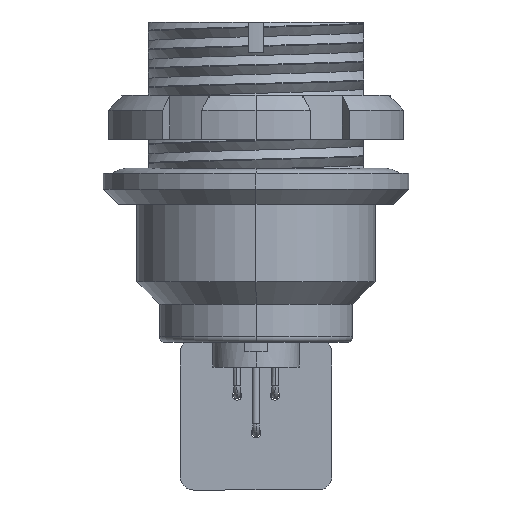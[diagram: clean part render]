
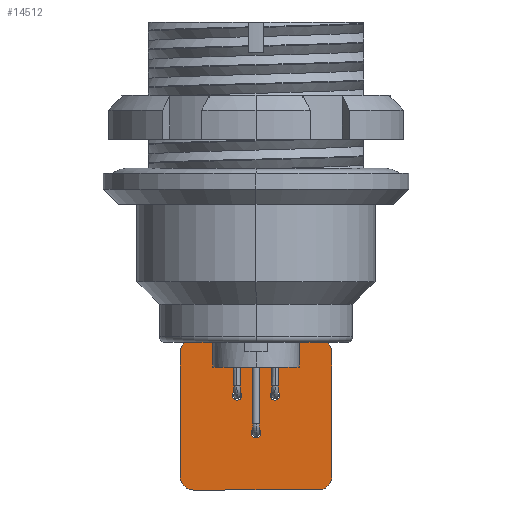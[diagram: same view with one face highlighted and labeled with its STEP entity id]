
A CAD part, left-side view. The second image highlights one B-rep face of the part: STEP entity #14512.
In plain terms, the highlighted planar face has unit normal (-1, 0, 0).
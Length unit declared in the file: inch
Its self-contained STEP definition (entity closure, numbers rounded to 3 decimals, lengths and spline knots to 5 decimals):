
#150 = DIRECTION ( 'NONE',  ( 1., 0., 0. ) ) ;
#222 = DIRECTION ( 'NONE',  ( 1., 0., 0. ) ) ;
#301 = CARTESIAN_POINT ( 'NONE',  ( 0.5, -0.165, -0.437 ) ) ;
#558 = AXIS2_PLACEMENT_3D ( 'NONE', #7543, #17738, #9116 ) ;
#570 = CARTESIAN_POINT ( 'NONE',  ( 0.5, 0.05, -0.587 ) ) ;
#585 = EDGE_CURVE ( 'NONE', #1026, #13732, #4982, .T. ) ;
#588 = ORIENTED_EDGE ( 'NONE', *, *, #3194, .T. ) ;
#731 = CARTESIAN_POINT ( 'NONE',  ( 0.5, -0.05, -0.587 ) ) ;
#988 = DIRECTION ( 'NONE',  ( -1., 0., 0. ) ) ;
#1026 = VERTEX_POINT ( 'NONE', #14835 ) ;
#1280 = ORIENTED_EDGE ( 'NONE', *, *, #13784, .T. ) ;
#1321 = FACE_OUTER_BOUND ( 'NONE', #5461, .T. ) ;
#1506 = CARTESIAN_POINT ( 'NONE',  ( 0.5, 0.05, -0.587 ) ) ;
#1599 = VERTEX_POINT ( 'NONE', #301 ) ;
#1964 = VECTOR ( 'NONE', #16043, 39.37008 ) ;
#2143 = DIRECTION ( 'NONE',  ( 0., 0., -1. ) ) ;
#2281 = DIRECTION ( 'NONE',  ( 0., 0., -1. ) ) ;
#2312 = LINE ( 'NONE', #14889, #9972 ) ;
#2487 = CARTESIAN_POINT ( 'NONE',  ( 0.5, 0., -0.6995 ) ) ;
#2655 = CARTESIAN_POINT ( 'NONE',  ( 0.5, 0.2, -0.837 ) ) ;
#2922 = AXIS2_PLACEMENT_3D ( 'NONE', #17646, #9000, #19051 ) ;
#2951 = AXIS2_PLACEMENT_3D ( 'NONE', #570, #11299, #2143 ) ;
#3072 = DIRECTION ( 'NONE',  ( 0., 0., -1. ) ) ;
#3194 = EDGE_CURVE ( 'NONE', #6085, #14391, #11630, .T. ) ;
#3379 = CIRCLE ( 'NONE', #18736, 0.035 ) ;
#3533 = CIRCLE ( 'NONE', #9568, 0.0125 ) ;
#3584 = EDGE_CURVE ( 'NONE', #10656, #13856, #13191, .T. ) ;
#3998 = CARTESIAN_POINT ( 'NONE',  ( 0.5, 0.2, -0.437 ) ) ;
#4051 = DIRECTION ( 'NONE',  ( 0., 0., 1. ) ) ;
#4190 = AXIS2_PLACEMENT_3D ( 'NONE', #17402, #8733, #18807 ) ;
#4310 = EDGE_CURVE ( 'NONE', #4413, #13732, #6490, .T. ) ;
#4350 = CARTESIAN_POINT ( 'NONE',  ( 0.5, 0., -0.6745 ) ) ;
#4395 = EDGE_CURVE ( 'NONE', #15481, #11815, #10091, .T. ) ;
#4413 = VERTEX_POINT ( 'NONE', #5701 ) ;
#4602 = CARTESIAN_POINT ( 'NONE',  ( 0.5, 0., 0. ) ) ;
#4982 = LINE ( 'NONE', #3998, #9063 ) ;
#5162 = EDGE_CURVE ( 'NONE', #16368, #18722, #11508, .T. ) ;
#5332 = CARTESIAN_POINT ( 'NONE',  ( 0.5, -0.2, -0.472 ) ) ;
#5403 = FACE_BOUND ( 'NONE', #10991, .T. ) ;
#5461 = EDGE_LOOP ( 'NONE', ( #6104, #10704, #18262, #6868, #7387, #16290, #15892, #16388 ) ) ;
#5701 = CARTESIAN_POINT ( 'NONE',  ( 0.5, 0.165, -0.437 ) ) ;
#5790 = EDGE_CURVE ( 'NONE', #15481, #13856, #12411, .T. ) ;
#5862 = FACE_BOUND ( 'NONE', #14822, .T. ) ;
#5935 = DIRECTION ( 'NONE',  ( 0., -1., 0. ) ) ;
#6085 = VERTEX_POINT ( 'NONE', #6095 ) ;
#6095 = CARTESIAN_POINT ( 'NONE',  ( 0.5, 0.05, -0.5995 ) ) ;
#6104 = ORIENTED_EDGE ( 'NONE', *, *, #3584, .F. ) ;
#6136 = DIRECTION ( 'NONE',  ( 0., 0., -1. ) ) ;
#6365 = CARTESIAN_POINT ( 'NONE',  ( 0.5, -0.2, -0.802 ) ) ;
#6490 = CIRCLE ( 'NONE', #4190, 0.035 ) ;
#6868 = ORIENTED_EDGE ( 'NONE', *, *, #4310, .T. ) ;
#7387 = ORIENTED_EDGE ( 'NONE', *, *, #585, .F. ) ;
#7494 = AXIS2_PLACEMENT_3D ( 'NONE', #8206, #18327, #9737 ) ;
#7543 = CARTESIAN_POINT ( 'NONE',  ( 0.5, 0., -0.687 ) ) ;
#7620 = EDGE_LOOP ( 'NONE', ( #1280, #8580 ) ) ;
#8206 = CARTESIAN_POINT ( 'NONE',  ( 0.5, -0.165, -0.472 ) ) ;
#8580 = ORIENTED_EDGE ( 'NONE', *, *, #17363, .T. ) ;
#8733 = DIRECTION ( 'NONE',  ( -1., 0., 0. ) ) ;
#8773 = AXIS2_PLACEMENT_3D ( 'NONE', #4602, #15076, #6136 ) ;
#9000 = DIRECTION ( 'NONE',  ( -1., 0., 0. ) ) ;
#9063 = VECTOR ( 'NONE', #4051, 39.37008 ) ;
#9116 = DIRECTION ( 'NONE',  ( 0., 0., -1. ) ) ;
#9261 = VECTOR ( 'NONE', #16694, 39.37008 ) ;
#9292 = EDGE_CURVE ( 'NONE', #14391, #6085, #19136, .T. ) ;
#9358 = CARTESIAN_POINT ( 'NONE',  ( 0.5, 0., -0.687 ) ) ;
#9409 = CARTESIAN_POINT ( 'NONE',  ( 0.5, -0.05, -0.587 ) ) ;
#9500 = FACE_BOUND ( 'NONE', #7620, .T. ) ;
#9568 = AXIS2_PLACEMENT_3D ( 'NONE', #9409, #222, #10932 ) ;
#9598 = EDGE_CURVE ( 'NONE', #1026, #11815, #3379, .T. ) ;
#9737 = DIRECTION ( 'NONE',  ( 0., 0., -1. ) ) ;
#9853 = AXIS2_PLACEMENT_3D ( 'NONE', #9358, #150, #10864 ) ;
#9972 = VECTOR ( 'NONE', #5935, 39.37008 ) ;
#10091 = LINE ( 'NONE', #2655, #1964 ) ;
#10165 = CARTESIAN_POINT ( 'NONE',  ( 0.5, 0.165, -0.802 ) ) ;
#10614 = PLANE ( 'NONE',  #8773 ) ;
#10656 = VERTEX_POINT ( 'NONE', #5332 ) ;
#10682 = ORIENTED_EDGE ( 'NONE', *, *, #14453, .T. ) ;
#10704 = ORIENTED_EDGE ( 'NONE', *, *, #16858, .T. ) ;
#10864 = DIRECTION ( 'NONE',  ( 0., 0., -1. ) ) ;
#10932 = DIRECTION ( 'NONE',  ( 0., 0., -1. ) ) ;
#10991 = EDGE_LOOP ( 'NONE', ( #13027, #588 ) ) ;
#11299 = DIRECTION ( 'NONE',  ( 1., 0., 0. ) ) ;
#11440 = DIRECTION ( 'NONE',  ( 1., 0., 0. ) ) ;
#11508 = CIRCLE ( 'NONE', #9853, 0.0125 ) ;
#11526 = CARTESIAN_POINT ( 'NONE',  ( 0.5, -0.05, -0.5995 ) ) ;
#11630 = CIRCLE ( 'NONE', #17211, 0.0125 ) ;
#11705 = DIRECTION ( 'NONE',  ( 0., 0., -1. ) ) ;
#11815 = VERTEX_POINT ( 'NONE', #12700 ) ;
#11851 = CARTESIAN_POINT ( 'NONE',  ( 0.5, -0.165, -0.837 ) ) ;
#12007 = CARTESIAN_POINT ( 'NONE',  ( 0.5, 0.05, -0.5745 ) ) ;
#12086 = CIRCLE ( 'NONE', #16962, 0.0125 ) ;
#12188 = DIRECTION ( 'NONE',  ( 1., 0., 0. ) ) ;
#12411 = CIRCLE ( 'NONE', #2922, 0.035 ) ;
#12454 = CARTESIAN_POINT ( 'NONE',  ( 0.5, -0.2, -0.437 ) ) ;
#12700 = CARTESIAN_POINT ( 'NONE',  ( 0.5, 0.165, -0.837 ) ) ;
#13027 = ORIENTED_EDGE ( 'NONE', *, *, #9292, .T. ) ;
#13191 = LINE ( 'NONE', #12454, #9261 ) ;
#13732 = VERTEX_POINT ( 'NONE', #15163 ) ;
#13784 = EDGE_CURVE ( 'NONE', #15629, #18498, #3533, .T. ) ;
#13856 = VERTEX_POINT ( 'NONE', #6365 ) ;
#13945 = ORIENTED_EDGE ( 'NONE', *, *, #5162, .T. ) ;
#14391 = VERTEX_POINT ( 'NONE', #12007 ) ;
#14400 = EDGE_CURVE ( 'NONE', #4413, #1599, #2312, .T. ) ;
#14453 = EDGE_CURVE ( 'NONE', #18722, #16368, #17159, .T. ) ;
#14512 = ADVANCED_FACE ( 'NONE', ( #5403, #1321, #5862, #9500 ), #10614, .F. ) ;
#14822 = EDGE_LOOP ( 'NONE', ( #10682, #13945 ) ) ;
#14835 = CARTESIAN_POINT ( 'NONE',  ( 0.5, 0.2, -0.802 ) ) ;
#14889 = CARTESIAN_POINT ( 'NONE',  ( 0.5, 0.2, -0.437 ) ) ;
#15076 = DIRECTION ( 'NONE',  ( 1., 0., 0. ) ) ;
#15163 = CARTESIAN_POINT ( 'NONE',  ( 0.5, 0.2, -0.472 ) ) ;
#15481 = VERTEX_POINT ( 'NONE', #11851 ) ;
#15629 = VERTEX_POINT ( 'NONE', #19170 ) ;
#15892 = ORIENTED_EDGE ( 'NONE', *, *, #4395, .F. ) ;
#16043 = DIRECTION ( 'NONE',  ( 0., 1., 0. ) ) ;
#16290 = ORIENTED_EDGE ( 'NONE', *, *, #9598, .T. ) ;
#16368 = VERTEX_POINT ( 'NONE', #2487 ) ;
#16388 = ORIENTED_EDGE ( 'NONE', *, *, #5790, .T. ) ;
#16694 = DIRECTION ( 'NONE',  ( 0., 0., -1. ) ) ;
#16858 = EDGE_CURVE ( 'NONE', #10656, #1599, #17385, .T. ) ;
#16962 = AXIS2_PLACEMENT_3D ( 'NONE', #731, #11440, #2281 ) ;
#17159 = CIRCLE ( 'NONE', #558, 0.0125 ) ;
#17211 = AXIS2_PLACEMENT_3D ( 'NONE', #1506, #12188, #3072 ) ;
#17363 = EDGE_CURVE ( 'NONE', #18498, #15629, #12086, .T. ) ;
#17385 = CIRCLE ( 'NONE', #7494, 0.035 ) ;
#17402 = CARTESIAN_POINT ( 'NONE',  ( 0.5, 0.165, -0.472 ) ) ;
#17646 = CARTESIAN_POINT ( 'NONE',  ( 0.5, -0.165, -0.802 ) ) ;
#17738 = DIRECTION ( 'NONE',  ( 1., 0., 0. ) ) ;
#18262 = ORIENTED_EDGE ( 'NONE', *, *, #14400, .F. ) ;
#18327 = DIRECTION ( 'NONE',  ( -1., 0., 0. ) ) ;
#18498 = VERTEX_POINT ( 'NONE', #11526 ) ;
#18722 = VERTEX_POINT ( 'NONE', #4350 ) ;
#18736 = AXIS2_PLACEMENT_3D ( 'NONE', #10165, #988, #11705 ) ;
#18807 = DIRECTION ( 'NONE',  ( 0., 0., -1. ) ) ;
#19051 = DIRECTION ( 'NONE',  ( 0., 0., -1. ) ) ;
#19136 = CIRCLE ( 'NONE', #2951, 0.0125 ) ;
#19170 = CARTESIAN_POINT ( 'NONE',  ( 0.5, -0.05, -0.5745 ) ) ;
